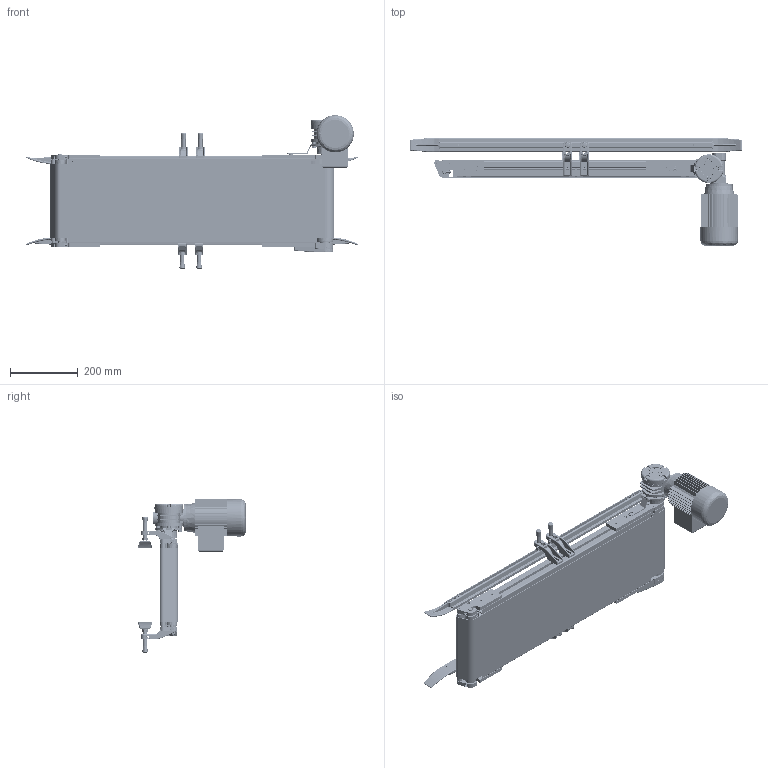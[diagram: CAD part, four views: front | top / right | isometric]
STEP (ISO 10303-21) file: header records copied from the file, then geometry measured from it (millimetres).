
FILE_DESCRIPTION (( 'STEP AP214' ), '1' );
FILE_NAME ('NASTRO_RETTILINEO_TAPPETO.step', '2026-05-08T13:04:06', ( 'Utente Windows' ), ( '' ), 'SwSTEP 2.0', 'SolidWorks 2024', '' );
FILE_SCHEMA (( 'AUTOMOTIVE_DESIGN' ));
Length unit declared in the file: millimetre
Products named in the file (72): 14UNI7435; 084.302.000 DADI ALUSIC 13x13-1_084.302.007; 084.711.006_L1; 084.807.016_084.807.002; TAPPETO_STANDARD_1PENNA; 084.811.004; 084.807.003_084.807.003<A macchina>; VITI TCEI UNI 5931_M6x30 UNI 5931; VITI TE UNI 5739_M6x16 UNI 5739; 084.302.000 DADI ALUSIC 9x9_084.302.014; CH03P_DX; 084.712.005; 084.807.002_084.807.002; 084.811.001; NASTRO_RETTILINEO_TAPPETO; 084.803.018; 084.301.000 VITI ALUSIC_084.301.003; SPONDA_Default<A macchina>; 084.711.005; 084.809.007; 084.711.010; TELAIO_50_STANDARD_Default<A macchina>; RULLO_50_Default<A macchina>; 084.802.061; 084.711.007; 084.802.065_Default<A macchina>; VITI TCEI UNI 5931_M6x20 UNI 5931; 084.802.036; CHIAVETTE_A 5x5x40 UNI 6604-69; 084.301.000 VITI ALUSIC_084.301.009; GRANI A PUNTA CONICA UNI 5927_M6x16 UNI 5927; BLOCCO_BRACCIO_CH03P_VF30P; BLOCCO_PERNO_50_RINVIO; 084.303.001; 084.807.015_084.807.002; 084.802.071; VITI TE UNI 5739 INOX_M5x12 UNI 5739 INOX; 084.802.017_084.802.017; VITI TSEI UNI 5933_M5x12 UNI 5933; 084.302.016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
Assembly tree (123 placements, depth 4):
  NASTRO_RETTILINEO_TAPPETO
    TAPPETO_STANDARD_1PENNA
    TELAIO_50_STANDARD_Default<A macchina>
    LAMIERA_1_PENNA
    RULLO_50_Default<A macchina>
    BLOCCO_PERNO_50_30
      084.810.001
      084.811.001
      RONDELLE FASCIA LARGA UNI 6593_5.4x20 UNI 6593
      084.301.000 VITI ALUSIC_084.301.009
      CHIAVETTE_A 5x5x40 UNI 6604-69
      CHIAVETTE_A 5x5x20 UNI 6604-69
      14UNI7435
    BLOCCO_TRAINO_50_STANDARD_30_DX
      084.807.003_084.807.003<A macchina>
      084.802.017_084.802.017
      084.301.000 VITI ALUSIC_084.301.003  x2
      084.302.000 DADI ALUSIC 13x13-1_084.302.004  x2
      BLOCCO_BRACCIO_CH03P_VF30P
        084.808.012
        084.802.062
        084.802.061
        VITI TE UNI 5739_M6x16 UNI 5739  x4
        084.803.018
        VITI TCEI UNI 5931_M6x12 UNI 5931  x4
      084.802.065_Default<A macchina>
      VITI TCEI UNI 5931_M4x25 UNI 5931  x2
    BLOCCO_PERNO_50_RINVIO
      084.811.004
      084.810.001
    BLOCCO_TRAINO_50_STANDARD
      084.807.002_084.807.002
      084.802.017_084.802.017
      084.301.000 VITI ALUSIC_084.301.003  x2
      084.302.000 DADI ALUSIC 13x13-1_084.302.004  x2
      VITI TSEI UNI 5933_M4x12 UNI 5933  x4
      084.802.071
      VITI TSEI UNI 5933 INOX_0412UNI5933A2  x2
    RULLO_SUP_50_PENNA
    BLOCCO_RINVIO_50_PENNA_SX
      084.807.016_084.807.002
      084.809.007
      084.802.036
      VITI TCEI UNI 5931_M6x30 UNI 5931
      RONDELLE UNI 6592_5.3x10 UNI 6592  x2
      084.302.000 DADI ALUSIC 9x9_084.302.014  x2
      VITI TCEI UNI 5931_M6x20 UNI 5931
      084.301.000 VITI ALUSIC_084.301.036
      084.302.016
      084.301.000 VITI ALUSIC_084.301.003  x2
      VITI TE UNI 5739 INOX_M5x12 UNI 5739 INOX  x2
      12UNI7435
      08UNI7435  x3
    BLOCCO_RINVIO_50_PENNA_DX
      084.802.036
      084.807.015_084.807.002
      VITI TCEI UNI 5931_M6x30 UNI 5931
      084.827.040
      VITI TCEI UNI 5931_M6x20 UNI 5931
      084.301.000 VITI ALUSIC_084.301.036
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Bounding box: 978.97 x 317 x 452.93 mm (x, y, z)
Volume: 5804857.5 mm3; surface area: 3308224.8 mm2
Topology: 160 solids, 166 shells, 7243 faces, 18123 edges, 11327 vertices
Faces by surface type: plane 3163, cylinder 2406, cone 613, torus 503, bspline 432, sphere 126
Entity records: 157054 total; most frequent: CARTESIAN_POINT 44689, ORIENTED_EDGE 23588, DIRECTION 22461, EDGE_CURVE 11794, AXIS2_PLACEMENT_3D 7972, VERTEX_POINT 7524, LINE 6517, VECTOR 6517
